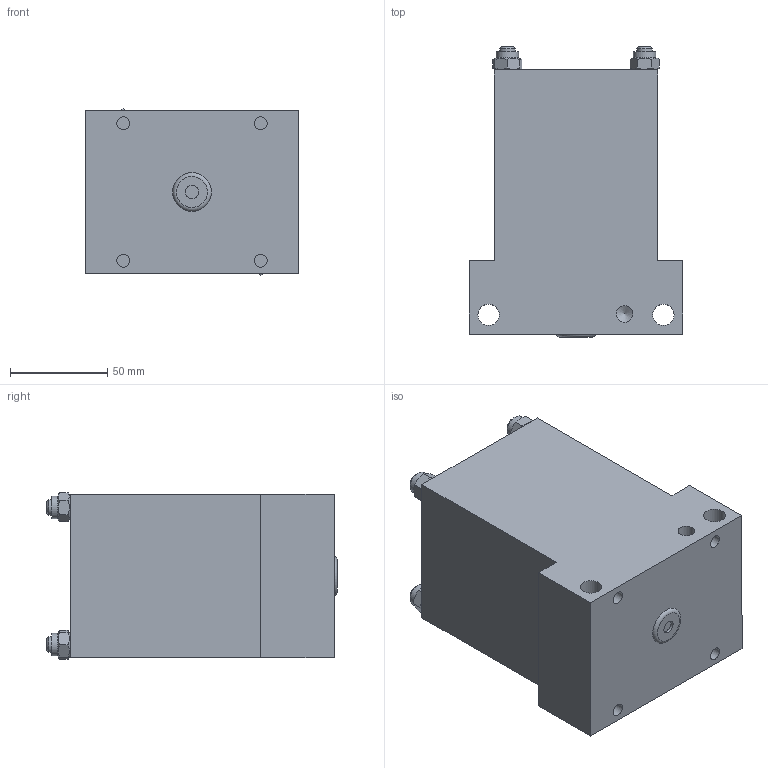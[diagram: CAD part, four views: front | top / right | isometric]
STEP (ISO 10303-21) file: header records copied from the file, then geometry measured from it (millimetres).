
FILE_DESCRIPTION((''),'2;1');
FILE_NAME('C:\VaultWork\Zeichnungen\Maßblätter\Multizylinder\M 75\M75-30\M01790-4-0 Maßblatt Multizylinder M75-4-12.stp','2013-06-17T12:00:16',('Sergeew'),(''),'Autodesk Inventor 2012','Autodesk Inventor 2012','');
FILE_SCHEMA(('AUTOMOTIVE_DESIGN { 1 0 10303 214 1 1 1 1 }'));
Length unit declared in the file: millimetre
Products named in the file (1): M01790-4-0 Maßblatt Multizylinder M75-4-12
Bounding box: 110 x 149.5 x 85.72 mm (x, y, z)
Volume: 1024888.2 mm3; surface area: 79059.9 mm2
Topology: 1 solids, 5 shells, 108 faces, 235 edges, 156 vertices
Faces by surface type: plane 61, cylinder 25, cone 21, torus 1
Full cylindrical faces by diameter (mm): 6.647 x5, 8 x8, 8.566 x2, 9 x4, 11 x2, 11.6 x4
Entity records: 2577 total; most frequent: CARTESIAN_POINT 501, DIRECTION 402, ORIENTED_EDGE 328, EDGE_LOOP 178, AXIS2_PLACEMENT_3D 177, EDGE_CURVE 164, VERTEX_POINT 132, FACE_OUTER_BOUND 108
